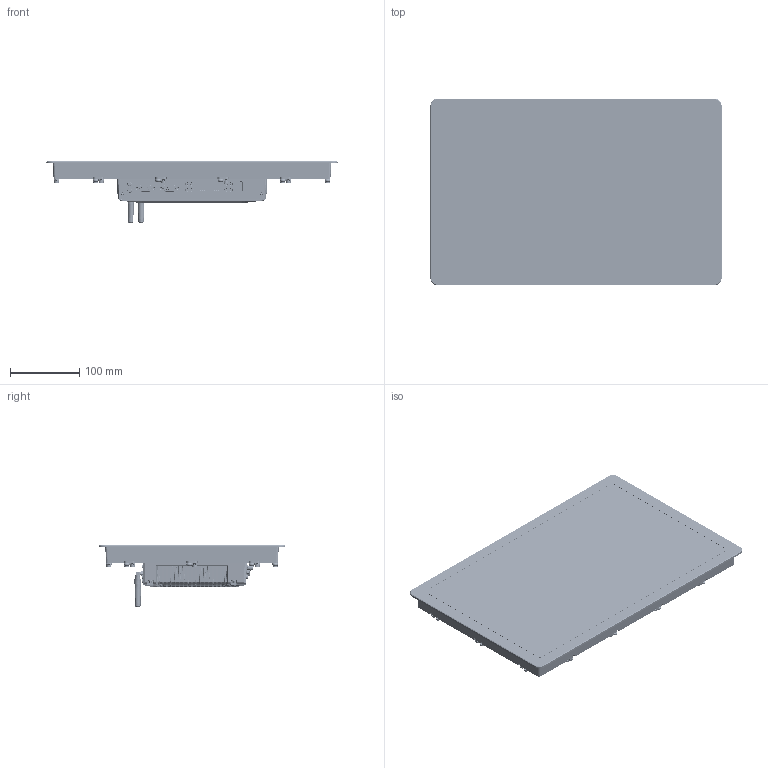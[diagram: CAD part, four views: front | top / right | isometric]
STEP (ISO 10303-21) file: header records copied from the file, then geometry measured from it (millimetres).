
FILE_DESCRIPTION(/* description */ (''),/* implementation_level */ '2;1');
FILE_NAME(/* name */ '15.6总装.stp',/* time_stamp */ '2026-03-07T09:12:52+08:00',/* author */ (''),/* organization */ (''),/* preprocessor_version */ 'ST-DEVELOPER v16',/* originating_system */ 'SIEMENS PLM Software NX 10.0',/* authorisation */ '');
FILE_SCHEMA (('AP203_CONFIGURATION_CONTROLLED_3D_DESIGN_OF_MECHANICAL_PARTS_AND_ASSEMBLIES_MIM_LF { 1 0 10303 403 2 1 2}'));
Products named in the file (1): Admi2744CC6Ai7ue
Bounding box: 420 x 269 x 89.28 mm (x, y, z)
Volume: 952193.9 mm3; surface area: 701667.3 mm2
Topology: 112 solids, 127 shells, 16140 faces, 40116 edges, 23863 vertices
Faces by surface type: cylinder 6866, plane 5388, bspline 2351, torus 606, sphere 457, cone 440, extrusion 32
Full cylindrical faces by diameter (mm): 2 x4, 2.2 x25, 3 x9, 3.1 x1, 3.2 x8, 3.5 x10, 4 x24, 4.2 x7, 4.5 x14, 5 x4, 5.4 x4, 5.5 x9, 6 x17, 6.5 x2, 6.6 x1, 6.743 x1, 6.78 x4, 7 x14, 7.306 x4, 7.5 x4, 8.429 x4, 9 x2
Entity records: 626650 total; most frequent: CARTESIAN_POINT 282905, ORIENTED_EDGE 77408, DIRECTION 63493, EDGE_CURVE 38704, VERTEX_POINT 23710, AXIS2_PLACEMENT_3D 23326, EDGE_LOOP 17230, VECTOR 16841
